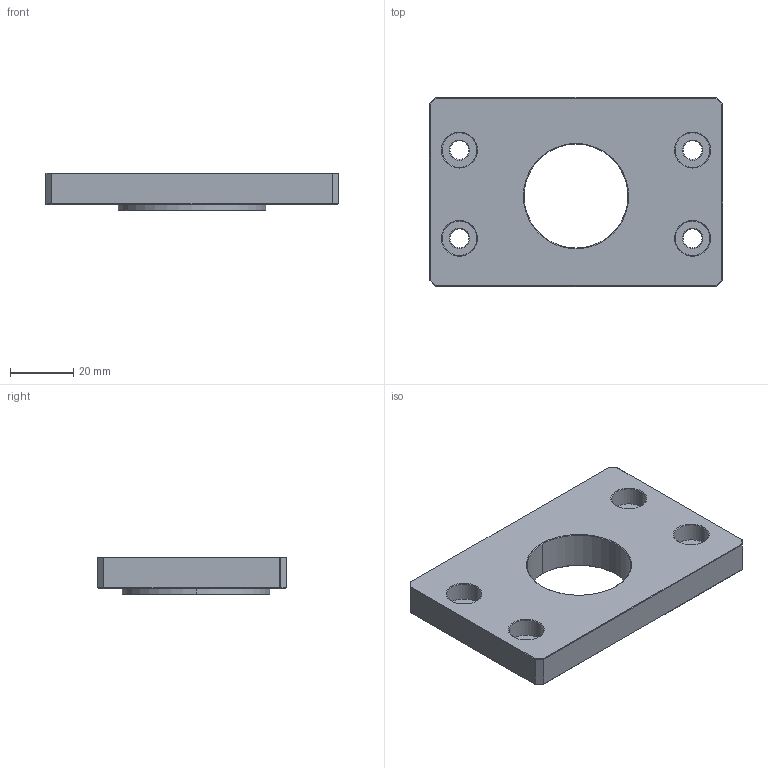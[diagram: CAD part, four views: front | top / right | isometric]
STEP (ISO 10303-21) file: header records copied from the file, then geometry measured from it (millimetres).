
FILE_DESCRIPTION((''),'2;1');
FILE_NAME('MI60','2017-05-23T',('Owner'),(''),'PRO/ENGINEER BY PARAMETRIC TECHNOLOGY CORPORATION, 2009440','PRO/ENGINEER BY PARAMETRIC TECHNOLOGY CORPORATION, 2009440','');
FILE_SCHEMA(('CONFIG_CONTROL_DESIGN'));
Length unit declared in the file: millimetre
Products named in the file (1): MI60
Bounding box: 93 x 60 x 12 mm (x, y, z)
Volume: 46138.5 mm3; surface area: 14743.7 mm2
Topology: 1 solids, 1 shells, 82 faces, 181 edges, 106 vertices
Faces by surface type: plane 32, cone 30, cylinder 20
Entity records: 2281 total; most frequent: DIRECTION 415, CARTESIAN_POINT 369, ORIENTED_EDGE 362, EDGE_CURVE 181, AXIS2_PLACEMENT_3D 152, VECTOR 111, LINE 111, VERTEX_POINT 106
